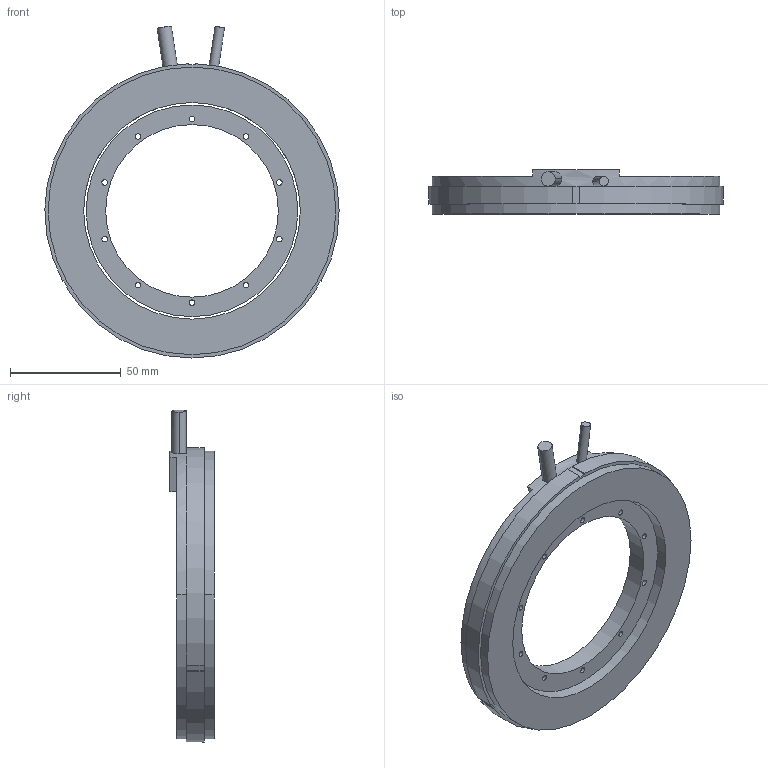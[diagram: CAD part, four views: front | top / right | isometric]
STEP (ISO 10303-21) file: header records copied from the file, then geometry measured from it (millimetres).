
FILE_DESCRIPTION (( 'STEP AP203' ), '1' );
FILE_NAME ('TMX133-17 3D.STEP', '2022-11-23T02:11:16', ( '' ), ( '' ), 'SwSTEP 2.0', 'SolidWorks 2021', '' );
FILE_SCHEMA (( 'CONFIG_CONTROL_DESIGN' ));
Length unit declared in the file: millimetre
Products named in the file (3): TMX133-17 KIT 3D; TMX133-17 3D; TM133-17 3D
Assembly tree (2 placements, depth 2):
  TMX133-17 3D
    TM133-17 3D
    TMX133-17 KIT 3D
Bounding box: 133 x 20 x 150.04 mm (x, y, z)
Volume: 125477.4 mm3; surface area: 36030.1 mm2
Topology: 2 solids, 2 shells, 58 faces, 153 edges, 102 vertices
Faces by surface type: cylinder 38, plane 20
Entity records: 2300 total; most frequent: CARTESIAN_POINT 440, DIRECTION 351, ORIENTED_EDGE 306, EDGE_CURVE 153, AXIS2_PLACEMENT_3D 139, VERTEX_POINT 102, EDGE_LOOP 85, CIRCLE 76
